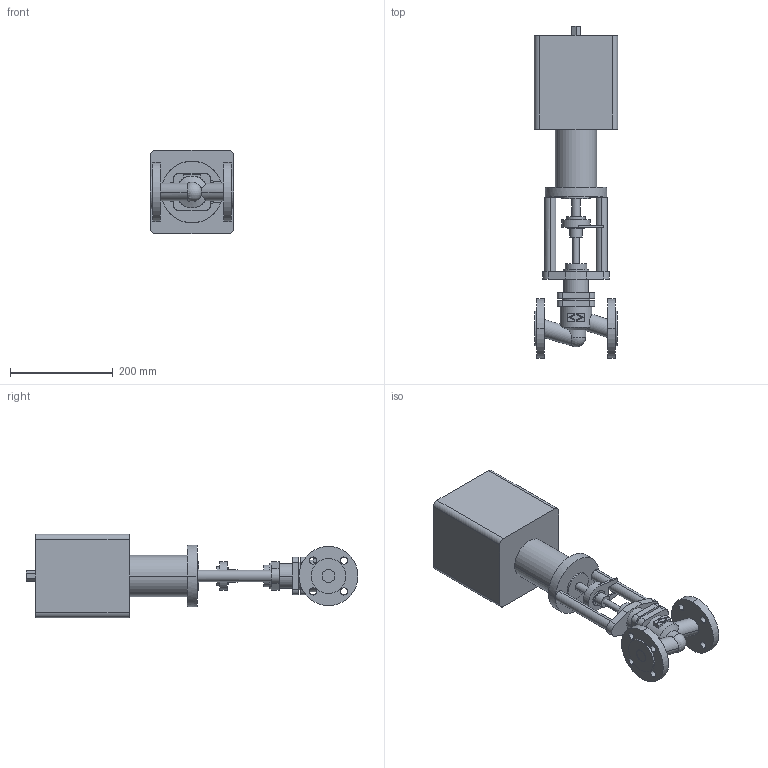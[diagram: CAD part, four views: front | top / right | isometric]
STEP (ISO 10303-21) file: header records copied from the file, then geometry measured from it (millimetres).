
FILE_DESCRIPTION( ( '' ), '1' );
FILE_NAME( 'F:/DE-SHS/TB/OR/04-Sonstiges/daten/files_3d/c000000775.stp', '2014-11-04T12:58:32', ( '' ), ( '' ), ' ', ' ', ' ' );
FILE_SCHEMA( ( 'CONFIG_CONTROL_DESIGN' ) );
Length unit declared in the file: millimetre
Products named in the file (2): 1; 2
Bounding box: 162 x 646.5 x 162 mm (x, y, z)
Volume: 6602522.4 mm3; surface area: 366637.5 mm2
Topology: 2 solids, 2 shells, 162 faces, 396 edges, 262 vertices
Faces by surface type: cylinder 82, plane 77, cone 2, sphere 1
Entity records: 5247 total; most frequent: CARTESIAN_POINT 1156, DIRECTION 885, ORIENTED_EDGE 788, EDGE_CURVE 394, AXIS2_PLACEMENT_3D 341, VERTEX_POINT 262, EDGE_LOOP 204, LINE 203
